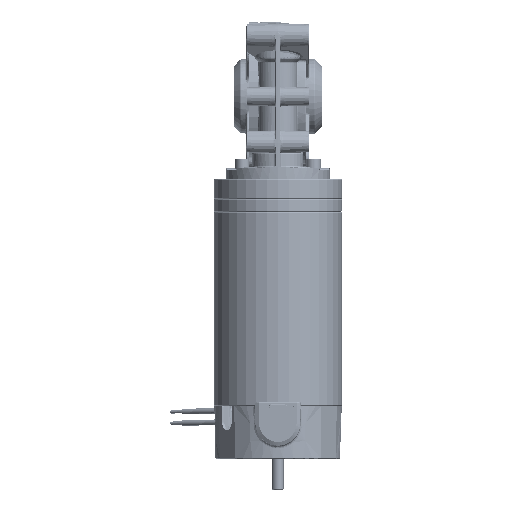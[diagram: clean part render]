
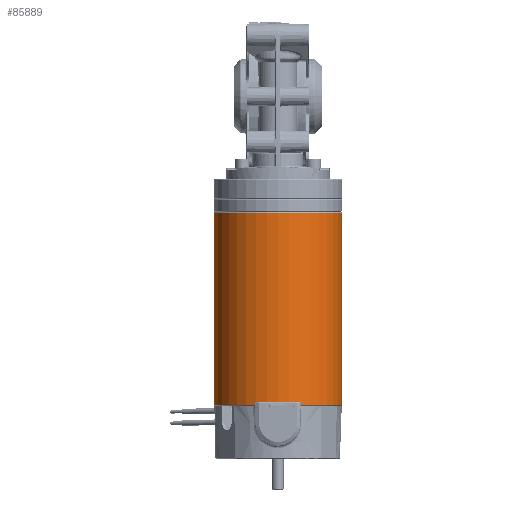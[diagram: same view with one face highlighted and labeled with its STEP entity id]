
A CAD part, front view. The second image highlights one B-rep face of the part: STEP entity #85889.
In plain terms, the highlighted cylindrical face has radius 45 mm (diameter 90 mm), a partial arc.
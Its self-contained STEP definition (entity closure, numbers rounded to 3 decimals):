
#770 = VERTEX_POINT ( 'NONE', #139715 ) ;
#14847 = AXIS2_PLACEMENT_3D ( 'NONE', #43676, #187760, #36582 ) ;
#19732 = DIRECTION ( 'NONE',  ( -1., 0., 0. ) ) ;
#19784 = AXIS2_PLACEMENT_3D ( 'NONE', #57184, #105928, #85813 ) ;
#28557 = ORIENTED_EDGE ( 'NONE', *, *, #137903, .F. ) ;
#30055 = ORIENTED_EDGE ( 'NONE', *, *, #194373, .T. ) ;
#36582 = DIRECTION ( 'NONE',  ( 1., 0., 0. ) ) ;
#39775 = DIRECTION ( 'NONE',  ( 0., 0., 1. ) ) ;
#43676 = CARTESIAN_POINT ( 'NONE',  ( 41.302, -12.233, -75.436 ) ) ;
#50034 = LINE ( 'NONE', #112595, #147310 ) ;
#52763 = CIRCLE ( 'NONE', #181505, 45. ) ;
#55582 = DIRECTION ( 'NONE',  ( 0., 0., 1. ) ) ;
#57184 = CARTESIAN_POINT ( 'NONE',  ( 41.302, -12.233, -75.436 ) ) ;
#64183 = CARTESIAN_POINT ( 'NONE',  ( 41.302, -12.233, 60.214 ) ) ;
#75666 = VERTEX_POINT ( 'NONE', #201335 ) ;
#85813 = DIRECTION ( 'NONE',  ( 1., 0., 0. ) ) ;
#85889 = ADVANCED_FACE ( 'NONE', ( #209430 ), #123178, .T. ) ;
#87740 = VERTEX_POINT ( 'NONE', #174303 ) ;
#93090 = CARTESIAN_POINT ( 'NONE',  ( 41.302, -57.233, -75.436 ) ) ;
#97462 = CIRCLE ( 'NONE', #19784, 45. ) ;
#102098 = EDGE_LOOP ( 'NONE', ( #28557, #127492, #30055, #149015, #181223 ) ) ;
#104099 = DIRECTION ( 'NONE',  ( 0., 0., -1. ) ) ;
#105448 = CARTESIAN_POINT ( 'NONE',  ( 86.302, -12.233, -75.436 ) ) ;
#105928 = DIRECTION ( 'NONE',  ( 0., 0., 1. ) ) ;
#110474 = DIRECTION ( 'NONE',  ( 0., 0., 1. ) ) ;
#112595 = CARTESIAN_POINT ( 'NONE',  ( -3.698, -12.233, -75.436 ) ) ;
#120244 = DIRECTION ( 'NONE',  ( 1., 0., 0. ) ) ;
#121146 = VECTOR ( 'NONE', #39775, 1000. ) ;
#122426 = AXIS2_PLACEMENT_3D ( 'NONE', #156314, #55582, #120244 ) ;
#123178 = CYLINDRICAL_SURFACE ( 'NONE', #14847, 45. ) ;
#127492 = ORIENTED_EDGE ( 'NONE', *, *, #149048, .T. ) ;
#132136 = CARTESIAN_POINT ( 'NONE',  ( 86.302, -12.233, 60.214 ) ) ;
#137903 = EDGE_CURVE ( 'NONE', #87740, #75666, #50034, .T. ) ;
#139715 = CARTESIAN_POINT ( 'NONE',  ( 86.302, -12.233, -75.436 ) ) ;
#147310 = VECTOR ( 'NONE', #110474, 1000. ) ;
#149015 = ORIENTED_EDGE ( 'NONE', *, *, #154041, .T. ) ;
#149048 = EDGE_CURVE ( 'NONE', #87740, #174999, #173244, .T. ) ;
#153226 = EDGE_CURVE ( 'NONE', #166056, #75666, #52763, .T. ) ;
#154041 = EDGE_CURVE ( 'NONE', #770, #166056, #186018, .T. ) ;
#156314 = CARTESIAN_POINT ( 'NONE',  ( 41.302, -12.233, -75.436 ) ) ;
#166056 = VERTEX_POINT ( 'NONE', #132136 ) ;
#173244 = CIRCLE ( 'NONE', #122426, 45. ) ;
#174303 = CARTESIAN_POINT ( 'NONE',  ( -3.698, -12.233, -75.436 ) ) ;
#174999 = VERTEX_POINT ( 'NONE', #93090 ) ;
#181223 = ORIENTED_EDGE ( 'NONE', *, *, #153226, .T. ) ;
#181505 = AXIS2_PLACEMENT_3D ( 'NONE', #64183, #104099, #19732 ) ;
#186018 = LINE ( 'NONE', #105448, #121146 ) ;
#187760 = DIRECTION ( 'NONE',  ( 0., 0., 1. ) ) ;
#194373 = EDGE_CURVE ( 'NONE', #174999, #770, #97462, .T. ) ;
#201335 = CARTESIAN_POINT ( 'NONE',  ( -3.698, -12.233, 60.214 ) ) ;
#209430 = FACE_OUTER_BOUND ( 'NONE', #102098, .T. ) ;
